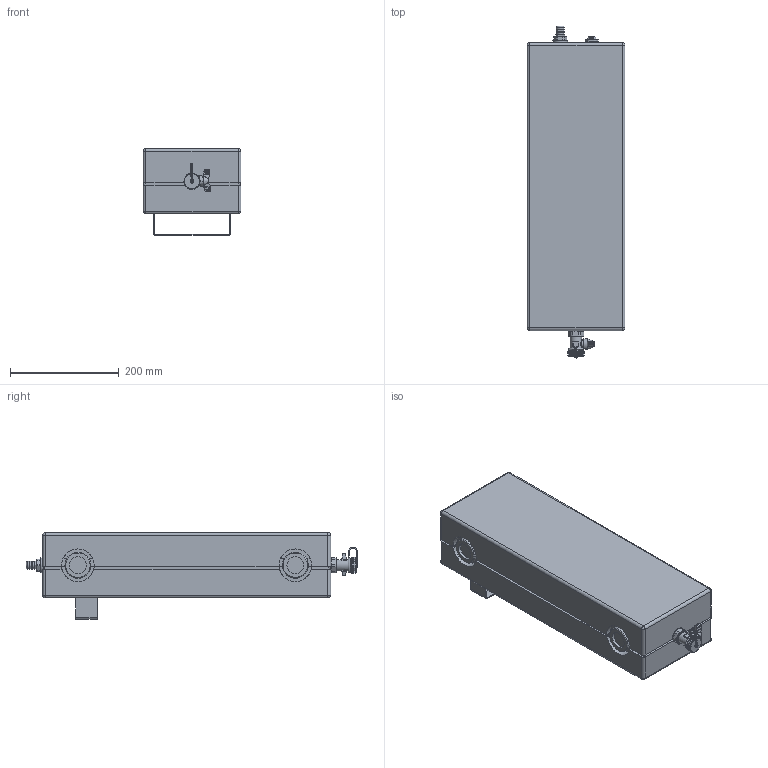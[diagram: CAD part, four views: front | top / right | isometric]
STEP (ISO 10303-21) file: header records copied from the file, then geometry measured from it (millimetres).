
FILE_DESCRIPTION((''),'2;1');
FILE_NAME('C:\Users\duckj\Desktop\10010376.stp','2017-04-21T13:22:40',('duckj'),(''),'Autodesk Inventor 2013','Autodesk Inventor 2013','');
FILE_SCHEMA(('CONFIG_CONTROL_DESIGN'));
Length unit declared in the file: millimetre
Products named in the file (4): 21042017_004; 21042017_006; 21042017_003; 21042017_005
Assembly tree (3 placements, depth 2):
  21042017_004
    21042017_006
    21042017_003
    21042017_005
Bounding box: 180 x 610.75 x 159.5 mm (x, y, z)
Volume: 10757035.5 mm3; surface area: 964218.5 mm2
Topology: 4 solids, 4 shells, 846 faces, 2164 edges, 1316 vertices
Faces by surface type: plane 384, cylinder 283, torus 57, sphere 50, cone 50, bspline 22
Full cylindrical faces by diameter (mm): 3.5 x1, 5 x1, 12.5 x1, 14 x2, 16.5 x1, 17.9 x1, 18 x1, 18.631 x1, 19.6 x1, 20.955 x1, 21 x1, 24 x1, 26.4 x3, 26.441 x1, 27 x1, 28 x1, 31 x4, 36 x4, 47.803 x4
Entity records: 26759 total; most frequent: CARTESIAN_POINT 5998, DIRECTION 4301, ORIENTED_EDGE 4064, EDGE_CURVE 2032, AXIS2_PLACEMENT_3D 1628, VERTEX_POINT 1296, VECTOR 1045, LINE 1045
